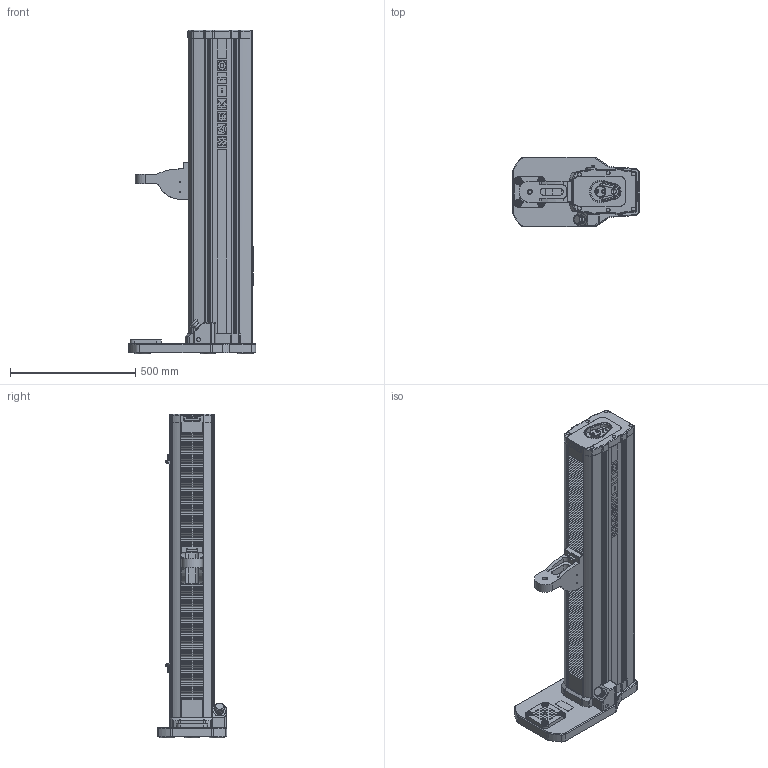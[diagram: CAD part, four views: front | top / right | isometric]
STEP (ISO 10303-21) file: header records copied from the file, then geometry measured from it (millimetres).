
FILE_DESCRIPTION(/* description */ (''),/* implementation_level */ '2;1');
FILE_NAME(/* name */ 'F:\CAD files\Itr\3D MARKETING MODELS\MOTORIZED TEST STANDS\FXXX5X\755-IM\F755_IM.stp',/* time_stamp */ '2021-02-05T15:36:05-05:00',/* author */ ('dsollitt'),/* organization */ (''),/* preprocessor_version */ 'ST-DEVELOPER v18.1',/* originating_system */ 'AutoCAD Mechanical',/* authorisation */ '');
FILE_SCHEMA (('AUTOMOTIVE_DESIGN { 1 0 10303 214 3 1 1 }'));
Products named in the file (1): Product
Bounding box: 508 x 278.99 x 1292.75 mm (x, y, z)
Volume: 57349472 mm3; surface area: 2451608.8 mm2
Topology: 6 solids, 11 shells, 8965 faces, 26181 edges, 18069 vertices
Faces by surface type: plane 7342, cylinder 1241, cone 217, torus 85, bspline 47, sphere 33
Full cylindrical faces by diameter (mm): 0.4 x1, 0.6 x1, 1.015 x2, 1.55 x4, 1.797 x2, 2 x2, 2.13 x1, 2.845 x14, 3.048 x14, 3.328 x1, 3.505 x2, 4.7 x24, 4.826 x48, 5.41 x14, 5.563 x2, 6 x2, 6.35 x42, 6.731 x4, 7.938 x4, 9.525 x6, 9.8 x1, 11.906 x2, 12.1 x1, 12.7 x3, 12.8 x2, 12.954 x4, 13.462 x2, 13.487 x4, 14.1 x1, 15.062 x7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
Entity records: 310435 total; most frequent: CARTESIAN_POINT 68529, ORIENTED_EDGE 52340, DIRECTION 46834, EDGE_CURVE 26170, LINE 22492, VECTOR 22492, VERTEX_POINT 18069, AXIS2_PLACEMENT_3D 12171
